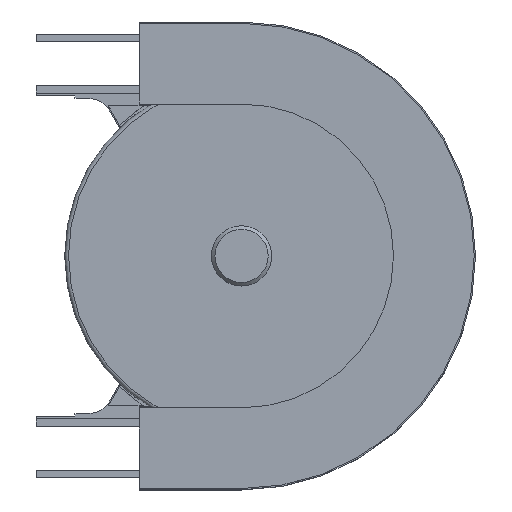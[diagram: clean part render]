
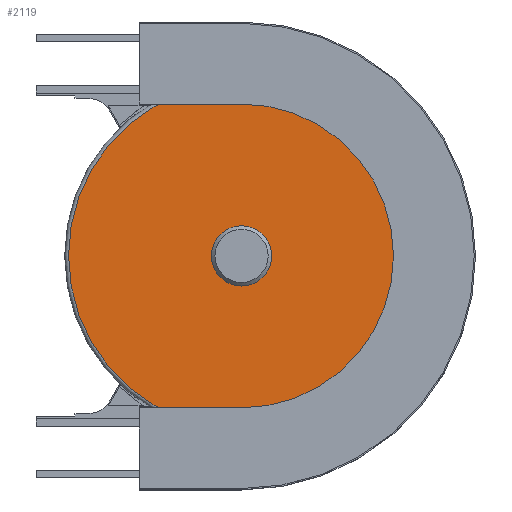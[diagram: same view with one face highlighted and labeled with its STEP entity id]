
A CAD part, top view. The second image highlights one B-rep face of the part: STEP entity #2119.
In plain terms, the highlighted planar face has unit normal (0, 0, 1).
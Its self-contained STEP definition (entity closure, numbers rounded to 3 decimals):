
#44=FACE_BOUND('',#347,.T.);
#83=CIRCLE('',#2281,21.);
#84=CIRCLE('',#2283,135.);
#218=FACE_OUTER_BOUND('',#346,.T.);
#346=EDGE_LOOP('',(#1799));
#347=EDGE_LOOP('',(#1800));
#1027=VERTEX_POINT('',#3369);
#1028=VERTEX_POINT('',#3373);
#1291=EDGE_CURVE('',#1027,#1027,#83,.T.);
#1293=EDGE_CURVE('',#1028,#1028,#84,.T.);
#1799=ORIENTED_EDGE('',*,*,#1293,.F.);
#1800=ORIENTED_EDGE('',*,*,#1291,.T.);
#2008=PLANE('',#2282);
#2119=ADVANCED_FACE('',(#218,#44),#2008,.T.);
#2281=AXIS2_PLACEMENT_3D('',#3370,#2754,#2755);
#2282=AXIS2_PLACEMENT_3D('',#3372,#2757,#2758);
#2283=AXIS2_PLACEMENT_3D('',#3374,#2759,#2760);
#2754=DIRECTION('center_axis',(0.,0.,-1.));
#2755=DIRECTION('ref_axis',(1.,0.,0.));
#2757=DIRECTION('center_axis',(0.,0.,1.));
#2758=DIRECTION('ref_axis',(1.,0.,0.));
#2759=DIRECTION('center_axis',(0.,0.,-1.));
#2760=DIRECTION('ref_axis',(1.,0.,0.));
#3369=CARTESIAN_POINT('',(101.,150.,33.5));
#3370=CARTESIAN_POINT('Origin',(80.,150.,33.5));
#3372=CARTESIAN_POINT('Origin',(-55.,150.,33.5));
#3373=CARTESIAN_POINT('',(215.,150.,33.5));
#3374=CARTESIAN_POINT('Origin',(80.,150.,33.5));
